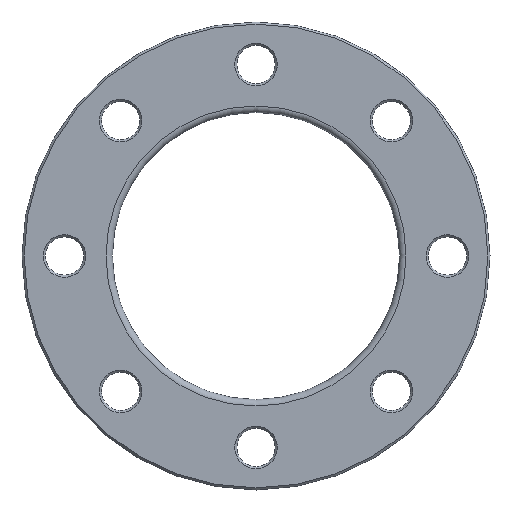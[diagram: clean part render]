
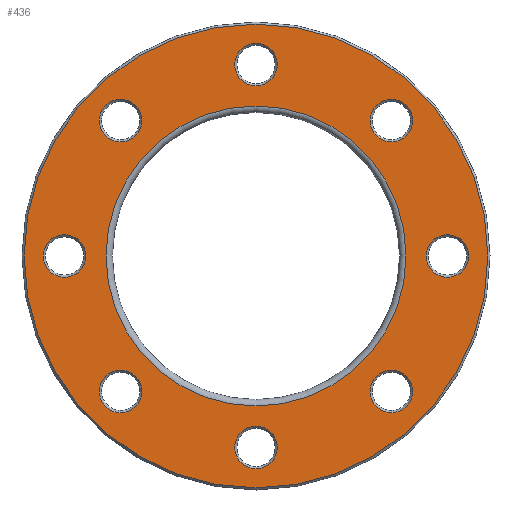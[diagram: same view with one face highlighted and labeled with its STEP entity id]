
A CAD part, front view. The second image highlights one B-rep face of the part: STEP entity #436.
In plain terms, the highlighted planar face has unit normal (0, -1, 0).
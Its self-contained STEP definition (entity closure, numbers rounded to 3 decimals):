
#23=PLANE('',#516);
#98=ORIENTED_EDGE('',*,*,#157,.T.);
#99=ORIENTED_EDGE('',*,*,#158,.T.);
#100=ORIENTED_EDGE('',*,*,#124,.T.);
#101=ORIENTED_EDGE('',*,*,#128,.T.);
#102=ORIENTED_EDGE('',*,*,#132,.T.);
#103=ORIENTED_EDGE('',*,*,#136,.T.);
#104=ORIENTED_EDGE('',*,*,#140,.T.);
#105=ORIENTED_EDGE('',*,*,#144,.T.);
#106=ORIENTED_EDGE('',*,*,#148,.T.);
#107=ORIENTED_EDGE('',*,*,#159,.T.);
#124=EDGE_CURVE('',#164,#164,#204,.T.);
#128=EDGE_CURVE('',#168,#168,#208,.T.);
#132=EDGE_CURVE('',#172,#172,#212,.T.);
#136=EDGE_CURVE('',#176,#176,#216,.T.);
#140=EDGE_CURVE('',#180,#180,#220,.T.);
#144=EDGE_CURVE('',#184,#184,#224,.T.);
#148=EDGE_CURVE('',#188,#188,#228,.T.);
#157=EDGE_CURVE('',#197,#197,#237,.F.);
#158=EDGE_CURVE('',#198,#198,#238,.T.);
#159=EDGE_CURVE('',#199,#199,#239,.T.);
#164=VERTEX_POINT('',#683);
#168=VERTEX_POINT('',#694);
#172=VERTEX_POINT('',#705);
#176=VERTEX_POINT('',#716);
#180=VERTEX_POINT('',#727);
#184=VERTEX_POINT('',#738);
#188=VERTEX_POINT('',#749);
#197=VERTEX_POINT('',#772);
#198=VERTEX_POINT('',#774);
#199=VERTEX_POINT('',#776);
#204=CIRCLE('',#461,10.);
#208=CIRCLE('',#468,10.);
#212=CIRCLE('',#475,10.);
#216=CIRCLE('',#482,10.);
#220=CIRCLE('',#489,10.);
#224=CIRCLE('',#496,10.);
#228=CIRCLE('',#503,10.);
#237=CIRCLE('',#517,109.);
#238=CIRCLE('',#518,70.5);
#239=CIRCLE('',#519,10.);
#298=EDGE_LOOP('',(#98));
#299=EDGE_LOOP('',(#99));
#300=EDGE_LOOP('',(#100));
#301=EDGE_LOOP('',(#101));
#302=EDGE_LOOP('',(#102));
#303=EDGE_LOOP('',(#103));
#304=EDGE_LOOP('',(#104));
#305=EDGE_LOOP('',(#105));
#306=EDGE_LOOP('',(#106));
#307=EDGE_LOOP('',(#107));
#378=FACE_BOUND('',#298,.T.);
#379=FACE_BOUND('',#299,.T.);
#380=FACE_BOUND('',#300,.T.);
#381=FACE_BOUND('',#301,.T.);
#382=FACE_BOUND('',#302,.T.);
#383=FACE_BOUND('',#303,.T.);
#384=FACE_BOUND('',#304,.T.);
#385=FACE_BOUND('',#305,.T.);
#386=FACE_BOUND('',#306,.T.);
#387=FACE_BOUND('',#307,.T.);
#436=ADVANCED_FACE('',(#378,#379,#380,#381,#382,#383,#384,#385,#386,#387),
#23,.F.);
#461=AXIS2_PLACEMENT_3D('',#682,#539,#540);
#468=AXIS2_PLACEMENT_3D('',#693,#553,#554);
#475=AXIS2_PLACEMENT_3D('',#704,#567,#568);
#482=AXIS2_PLACEMENT_3D('',#715,#581,#582);
#489=AXIS2_PLACEMENT_3D('',#726,#595,#596);
#496=AXIS2_PLACEMENT_3D('',#737,#609,#610);
#503=AXIS2_PLACEMENT_3D('',#748,#623,#624);
#516=AXIS2_PLACEMENT_3D('',#770,#649,#650);
#517=AXIS2_PLACEMENT_3D('',#771,#651,#652);
#518=AXIS2_PLACEMENT_3D('',#773,#653,#654);
#519=AXIS2_PLACEMENT_3D('',#775,#655,#656);
#539=DIRECTION('',(0.,1.,0.));
#540=DIRECTION('',(0.707,0.,0.707));
#553=DIRECTION('',(0.,1.,0.));
#554=DIRECTION('',(0.,0.,1.));
#567=DIRECTION('',(0.,1.,0.));
#568=DIRECTION('',(-0.707,0.,0.707));
#581=DIRECTION('',(0.,1.,0.));
#582=DIRECTION('',(-1.,0.,0.));
#595=DIRECTION('',(0.,1.,0.));
#596=DIRECTION('',(-0.707,0.,-0.707));
#609=DIRECTION('',(0.,1.,0.));
#610=DIRECTION('',(0.,0.,-1.));
#623=DIRECTION('',(0.,1.,0.));
#624=DIRECTION('',(0.707,0.,-0.707));
#649=DIRECTION('',(0.,1.,0.));
#650=DIRECTION('',(0.,0.,1.));
#651=DIRECTION('',(0.,1.,0.));
#652=DIRECTION('',(0.,0.,1.));
#653=DIRECTION('',(0.,1.,0.));
#654=DIRECTION('',(0.,0.,1.));
#655=DIRECTION('',(0.,1.,0.));
#656=DIRECTION('',(1.,0.,0.));
#682=CARTESIAN_POINT('',(-63.64,0.,63.64));
#683=CARTESIAN_POINT('',(-56.569,0.,70.711));
#693=CARTESIAN_POINT('',(-90.,0.,0.));
#694=CARTESIAN_POINT('',(-90.,0.,10.));
#704=CARTESIAN_POINT('',(-63.64,0.,-63.64));
#705=CARTESIAN_POINT('',(-70.711,0.,-56.569));
#715=CARTESIAN_POINT('',(0.,0.,-90.));
#716=CARTESIAN_POINT('',(-10.,0.,-90.));
#726=CARTESIAN_POINT('',(63.64,0.,-63.64));
#727=CARTESIAN_POINT('',(56.569,0.,-70.711));
#737=CARTESIAN_POINT('',(90.,0.,0.));
#738=CARTESIAN_POINT('',(90.,0.,-10.));
#748=CARTESIAN_POINT('',(63.64,0.,63.64));
#749=CARTESIAN_POINT('',(70.711,0.,56.569));
#770=CARTESIAN_POINT('',(0.,0.,0.));
#771=CARTESIAN_POINT('',(0.,0.,0.));
#772=CARTESIAN_POINT('',(0.,0.,109.));
#773=CARTESIAN_POINT('',(0.,0.,0.));
#774=CARTESIAN_POINT('',(0.,0.,70.5));
#775=CARTESIAN_POINT('',(0.,0.,90.));
#776=CARTESIAN_POINT('',(10.,0.,90.));
